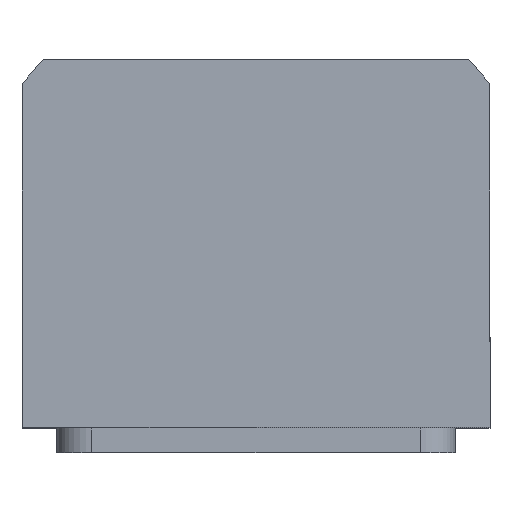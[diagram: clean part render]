
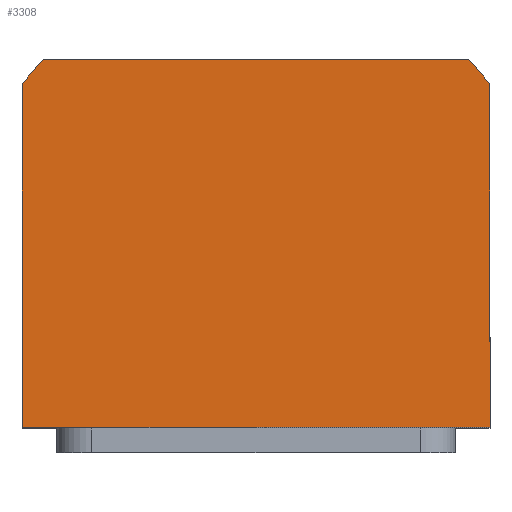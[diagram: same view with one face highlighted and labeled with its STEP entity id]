
A CAD part, top view. The second image highlights one B-rep face of the part: STEP entity #3308.
In plain terms, the highlighted planar face has unit normal (0, 0, 1).
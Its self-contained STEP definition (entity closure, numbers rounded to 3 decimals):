
#234 = DIRECTION ( 'NONE',  ( 1., 0., 0. ) ) ;
#283 = ORIENTED_EDGE ( 'NONE', *, *, #2467, .T. ) ;
#935 = CIRCLE ( 'NONE', #5388, 58.5 ) ;
#1098 = VERTEX_POINT ( 'NONE', #3684 ) ;
#1224 = CARTESIAN_POINT ( 'NONE',  ( -47., 34.832, 47.5 ) ) ;
#1443 = VERTEX_POINT ( 'NONE', #6829 ) ;
#1734 = AXIS2_PLACEMENT_3D ( 'NONE', #2755, #2719, #234 ) ;
#1986 = DIRECTION ( 'NONE',  ( 0., -1., 0. ) ) ;
#2063 = DIRECTION ( 'NONE',  ( 0., 0., 1. ) ) ;
#2374 = CARTESIAN_POINT ( 'NONE',  ( 47., -34., 47.5 ) ) ;
#2393 = EDGE_CURVE ( 'NONE', #7373, #4400, #10622, .T. ) ;
#2467 = EDGE_CURVE ( 'NONE', #10585, #1098, #935, .T. ) ;
#2719 = DIRECTION ( 'NONE',  ( 0., 0., 1. ) ) ;
#2755 = CARTESIAN_POINT ( 'NONE',  ( 0., 0., 47.5 ) ) ;
#2979 = CARTESIAN_POINT ( 'NONE',  ( 0., 0., 47.5 ) ) ;
#3125 = CARTESIAN_POINT ( 'NONE',  ( -47., -34., 47.5 ) ) ;
#3218 = ORIENTED_EDGE ( 'NONE', *, *, #3789, .T. ) ;
#3299 = FACE_OUTER_BOUND ( 'NONE', #6830, .T. ) ;
#3308 = ADVANCED_FACE ( 'NONE', ( #3299 ), #10533, .T. ) ;
#3528 = ORIENTED_EDGE ( 'NONE', *, *, #8416, .T. ) ;
#3684 = CARTESIAN_POINT ( 'NONE',  ( 42.688, 40., 47.5 ) ) ;
#3716 = VECTOR ( 'NONE', #1986, 1000. ) ;
#3757 = DIRECTION ( 'NONE',  ( 0., 0., 1. ) ) ;
#3789 = EDGE_CURVE ( 'NONE', #4400, #10706, #8158, .T. ) ;
#3814 = DIRECTION ( 'NONE',  ( 1., 0., 0. ) ) ;
#4035 = ORIENTED_EDGE ( 'NONE', *, *, #5166, .T. ) ;
#4116 = LINE ( 'NONE', #9718, #8167 ) ;
#4400 = VERTEX_POINT ( 'NONE', #3125 ) ;
#4437 = CARTESIAN_POINT ( 'NONE',  ( -42.688, 40., 47.5 ) ) ;
#4466 = CARTESIAN_POINT ( 'NONE',  ( 47., -34., 47.5 ) ) ;
#4604 = AXIS2_PLACEMENT_3D ( 'NONE', #8919, #3757, #6241 ) ;
#5166 = EDGE_CURVE ( 'NONE', #1443, #7373, #6063, .T. ) ;
#5388 = AXIS2_PLACEMENT_3D ( 'NONE', #2979, #2063, #3814 ) ;
#5850 = VECTOR ( 'NONE', #11076, 1000. ) ;
#5981 = DIRECTION ( 'NONE',  ( -1., 0., 0. ) ) ;
#6063 = CIRCLE ( 'NONE', #4604, 58.5 ) ;
#6120 = VECTOR ( 'NONE', #5981, 1000. ) ;
#6241 = DIRECTION ( 'NONE',  ( 1., 0., 0. ) ) ;
#6829 = CARTESIAN_POINT ( 'NONE',  ( -42.688, 40., 47.5 ) ) ;
#6830 = EDGE_LOOP ( 'NONE', ( #3218, #3528, #283, #8482, #4035, #8901 ) ) ;
#7312 = CARTESIAN_POINT ( 'NONE',  ( -47., -34., 47.5 ) ) ;
#7373 = VERTEX_POINT ( 'NONE', #1224 ) ;
#8158 = LINE ( 'NONE', #2374, #5850 ) ;
#8167 = VECTOR ( 'NONE', #8991, 1000. ) ;
#8416 = EDGE_CURVE ( 'NONE', #10706, #10585, #4116, .T. ) ;
#8482 = ORIENTED_EDGE ( 'NONE', *, *, #10460, .T. ) ;
#8810 = CARTESIAN_POINT ( 'NONE',  ( 47., 34.832, 47.5 ) ) ;
#8901 = ORIENTED_EDGE ( 'NONE', *, *, #2393, .T. ) ;
#8919 = CARTESIAN_POINT ( 'NONE',  ( 0., 0., 47.5 ) ) ;
#8953 = LINE ( 'NONE', #4437, #6120 ) ;
#8991 = DIRECTION ( 'NONE',  ( 0., 1., 0. ) ) ;
#9718 = CARTESIAN_POINT ( 'NONE',  ( 47., 34.832, 47.5 ) ) ;
#10460 = EDGE_CURVE ( 'NONE', #1098, #1443, #8953, .T. ) ;
#10533 = PLANE ( 'NONE',  #1734 ) ;
#10585 = VERTEX_POINT ( 'NONE', #8810 ) ;
#10622 = LINE ( 'NONE', #7312, #3716 ) ;
#10706 = VERTEX_POINT ( 'NONE', #4466 ) ;
#11076 = DIRECTION ( 'NONE',  ( 1., 0., 0. ) ) ;
